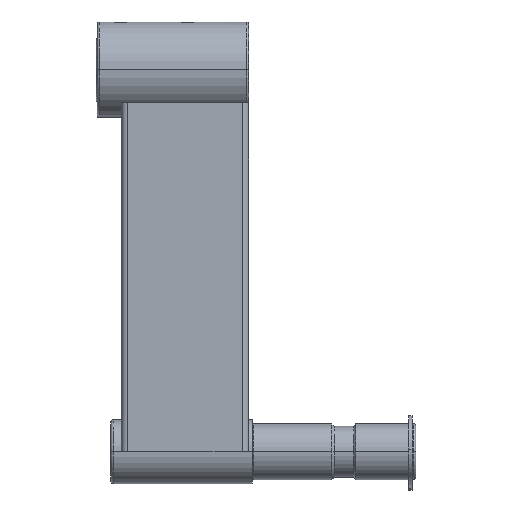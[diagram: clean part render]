
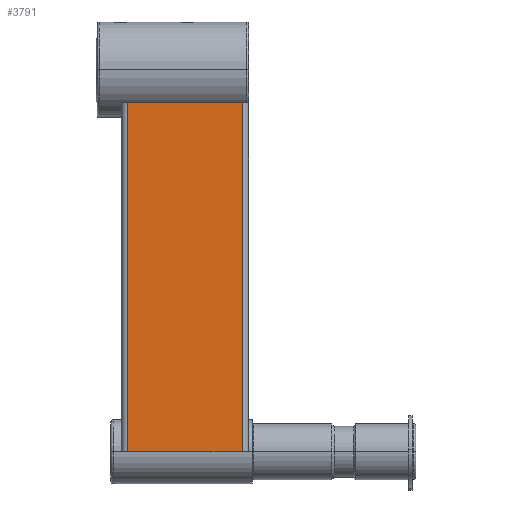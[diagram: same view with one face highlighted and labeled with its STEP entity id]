
A CAD part, left-side view. The second image highlights one B-rep face of the part: STEP entity #3791.
In plain terms, the highlighted planar face has unit normal (-1, 0, 0).
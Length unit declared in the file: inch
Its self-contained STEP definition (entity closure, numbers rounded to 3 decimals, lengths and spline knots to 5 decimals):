
#625 = EDGE_CURVE ( 'NONE', #4805, #4732, #1843, .T. ) ;
#665 = EDGE_CURVE ( 'NONE', #4736, #4763, #1888, .T. ) ;
#809 = ORIENTED_EDGE ( 'NONE', *, *, #625, .T. ) ;
#828 = ORIENTED_EDGE ( 'NONE', *, *, #3127, .T. ) ;
#836 = ORIENTED_EDGE ( 'NONE', *, *, #665, .F. ) ;
#852 = ORIENTED_EDGE ( 'NONE', *, *, #3179, .F. ) ;
#1666 = FACE_OUTER_BOUND ( 'NONE', #4832, .T. ) ;
#1843 = LINE ( 'NONE', #4953, #1844 ) ;
#1844 = VECTOR ( 'NONE', #4972, 39.37008 ) ;
#1868 = VECTOR ( 'NONE', #5070, 39.37008 ) ;
#1888 = LINE ( 'NONE', #5067, #1868 ) ;
#2176 = LINE ( 'NONE', #5364, #2182 ) ;
#2182 = VECTOR ( 'NONE', #5391, 39.37008 ) ;
#2252 = LINE ( 'NONE', #5656, #2260 ) ;
#2260 = VECTOR ( 'NONE', #5715, 39.37008 ) ;
#3127 = EDGE_CURVE ( 'NONE', #4732, #4763, #2176, .T. ) ;
#3179 = EDGE_CURVE ( 'NONE', #4805, #4736, #2252, .T. ) ;
#3791 = ADVANCED_FACE ( 'NONE', ( #1666 ), #5644, .F. ) ;
#4732 = VERTEX_POINT ( 'NONE', #6620 ) ;
#4736 = VERTEX_POINT ( 'NONE', #6602 ) ;
#4763 = VERTEX_POINT ( 'NONE', #6587 ) ;
#4805 = VERTEX_POINT ( 'NONE', #6662 ) ;
#4832 = EDGE_LOOP ( 'NONE', ( #828, #836, #852, #809 ) ) ;
#4953 = CARTESIAN_POINT ( 'NONE',  ( 0., -0.1, 2.741 ) ) ;
#4972 = DIRECTION ( 'NONE',  ( 0., 0., -1. ) ) ;
#5067 = CARTESIAN_POINT ( 'NONE',  ( 0., -1.9, 2.741 ) ) ;
#5070 = DIRECTION ( 'NONE',  ( 0., 0., -1. ) ) ;
#5364 = CARTESIAN_POINT ( 'NONE',  ( 0., -0.1, -2.741 ) ) ;
#5391 = DIRECTION ( 'NONE',  ( 0., -1., 0. ) ) ;
#5644 = PLANE ( 'NONE',  #6401 ) ;
#5656 = CARTESIAN_POINT ( 'NONE',  ( 0., -0.1, 2.741 ) ) ;
#5715 = DIRECTION ( 'NONE',  ( 0., -1., 0. ) ) ;
#5730 = CARTESIAN_POINT ( 'NONE',  ( 0., -0.1, 2.741 ) ) ;
#5765 = DIRECTION ( 'NONE',  ( 1., 0., 0. ) ) ;
#5770 = DIRECTION ( 'NONE',  ( 0., 1., 0. ) ) ;
#6401 = AXIS2_PLACEMENT_3D ( 'NONE', #5730, #5765, #5770 ) ;
#6587 = CARTESIAN_POINT ( 'NONE',  ( 0., -1.9, -2.741 ) ) ;
#6602 = CARTESIAN_POINT ( 'NONE',  ( 0., -1.9, 2.741 ) ) ;
#6620 = CARTESIAN_POINT ( 'NONE',  ( 0., -0.1, -2.741 ) ) ;
#6662 = CARTESIAN_POINT ( 'NONE',  ( 0., -0.1, 2.741 ) ) ;
